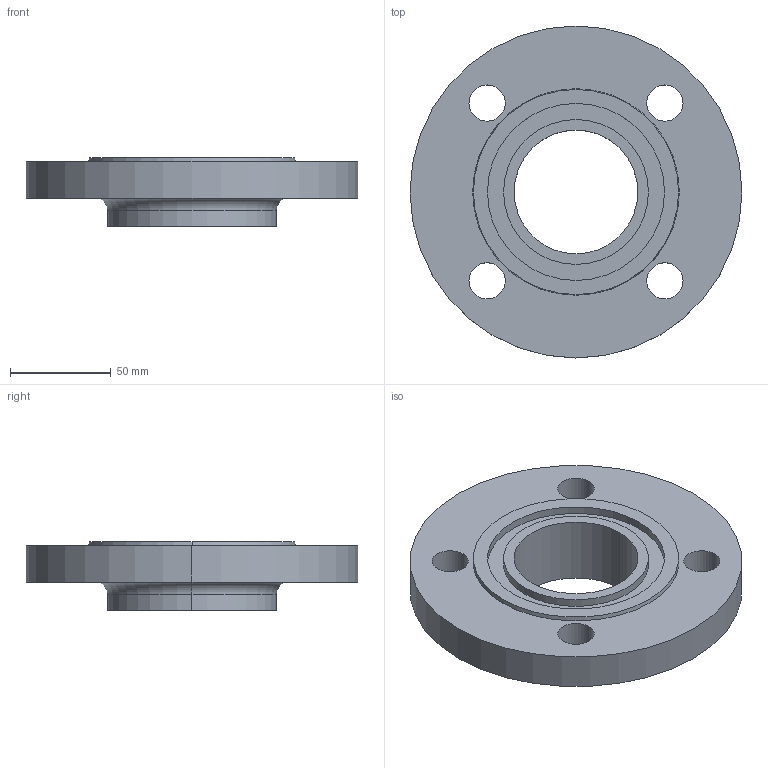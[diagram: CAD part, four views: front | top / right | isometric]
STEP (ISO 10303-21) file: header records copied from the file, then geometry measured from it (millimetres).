
FILE_DESCRIPTION (( 'STEP AP214' ), '1' );
FILE_NAME ('PN40 DN50 Type 12 - Type D Face.STEP', '2018-12-30T04:33:38', ( '' ), ( '' ), 'SwSTEP 2.0', 'SolidWorks 2019', '' );
FILE_SCHEMA (( 'AUTOMOTIVE_DESIGN' ));
Length unit declared in the file: millimetre
Products named in the file (1): PN40 DN50 Type 12 - Type D Face
Bounding box: 165 x 165 x 34 mm (x, y, z)
Volume: 353665.1 mm3; surface area: 60340.3 mm2
Topology: 1 solids, 1 shells, 28 faces, 64 edges, 42 vertices
Faces by surface type: cylinder 18, plane 6, torus 2, cone 2
Entity records: 870 total; most frequent: DIRECTION 166, CARTESIAN_POINT 135, ORIENTED_EDGE 128, AXIS2_PLACEMENT_3D 73, EDGE_CURVE 64, CIRCLE 44, VERTEX_POINT 42, EDGE_LOOP 42
